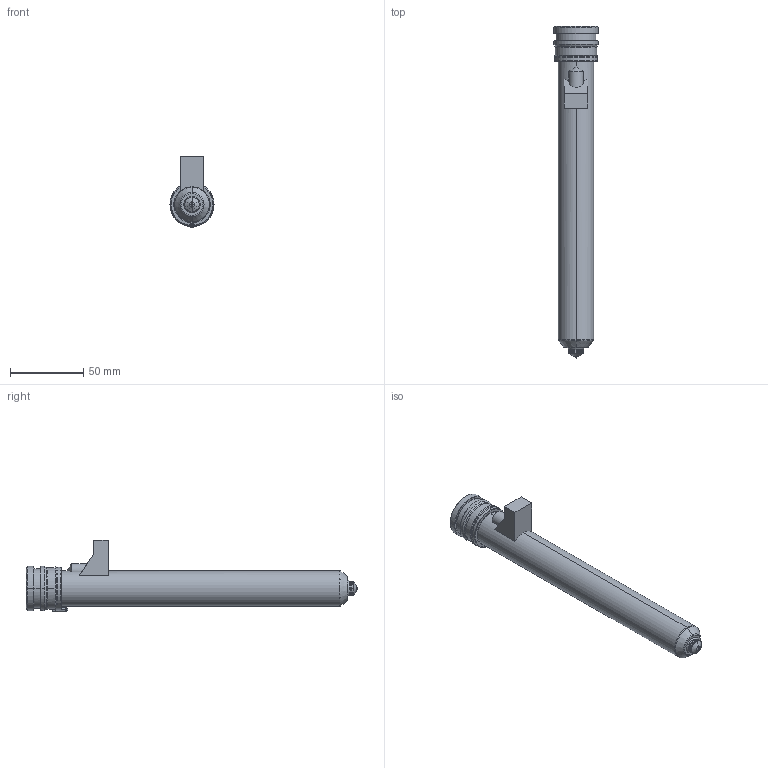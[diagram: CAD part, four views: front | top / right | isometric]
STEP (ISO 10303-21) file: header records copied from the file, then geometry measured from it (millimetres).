
FILE_DESCRIPTION((''),'2;1');
FILE_NAME('MPN-10-29-VSA10-206-M','2026-02-05T13:02:00',('UPTIO'),('Thermoplay S.p.A.'),'CREO PARAMETRIC BY PTC INC, 2023494','CREO PARAMETRIC BY PTC INC, 2023494','');
FILE_SCHEMA(('CONFIG_CONTROL_DESIGN','SHAPE_APPEARANCE_LAYERS_GROUPS'));
Length unit declared in the file: millimetre
Products named in the file (1): MPN-10-29-VSA10-206-M
Bounding box: 30 x 226 x 49 mm (x, y, z)
Volume: 69999.9 mm3; surface area: 71996.4 mm2
Topology: 3 solids, 5 shells, 546 faces, 1379 edges, 839 vertices
Faces by surface type: cylinder 181, plane 145, bspline 71, torus 69, cone 68, sphere 8, extrusion 4
Entity records: 28512 total; most frequent: CARTESIAN_POINT 12648, ORIENTED_EDGE 2744, DIRECTION 2618, EDGE_CURVE 1372, AXIS2_PLACEMENT_3D 1038, VERTEX_POINT 839, EDGE_LOOP 575, CIRCLE 566
